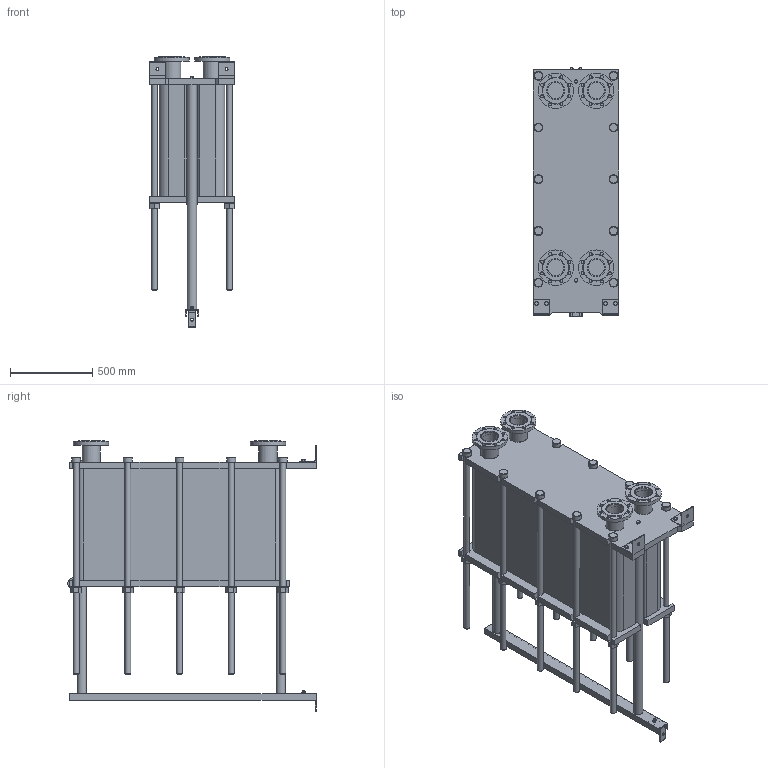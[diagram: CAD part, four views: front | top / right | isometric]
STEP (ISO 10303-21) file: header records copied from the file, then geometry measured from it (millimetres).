
FILE_DESCRIPTION(/* description */ (''),/* implementation_level */ '2;1');
FILE_NAME(/* name */ 'C:\Users\zhuro\Desktop\ENCO\TO\ЭН-04\ЭН-0,5-04-196-1.stp',/* time_stamp */ '2022-06-06T11:02:20+03:00',/* author */ ('zhuro'),/* organization */ (''),/* preprocessor_version */ 'ST-DEVELOPER v18.1',/* originating_system */ 'Autodesk Inventor 2022',/* authorisation */ '');
FILE_SCHEMA (('AUTOMOTIVE_DESIGN { 1 0 10303 214 3 1 1 }'));
Length unit declared in the file: millimetre
Products named in the file (1): ЭН-0,5-04-196-1
Bounding box: 520 x 1510 x 1643 mm (x, y, z)
Volume: 414308735 mm3; surface area: 10466311 mm2
Topology: 45 solids, 45 shells, 668 faces, 1611 edges, 1048 vertices
Faces by surface type: plane 457, cylinder 166, cone 39, torus 6
Full cylindrical faces by diameter (mm): 8 x4, 10 x2, 16 x8, 18 x35, 36 x25, 40 x2, 42 x1, 45 x4, 54 x10, 57 x2, 60 x10, 68 x2, 100 x4, 110 x8, 215 x4
Entity records: 23607 total; most frequent: CARTESIAN_POINT 7348, DIRECTION 3371, ORIENTED_EDGE 3142, EDGE_CURVE 1571, AXIS2_PLACEMENT_3D 1199, VERTEX_POINT 1044, LINE 973, VECTOR 973
